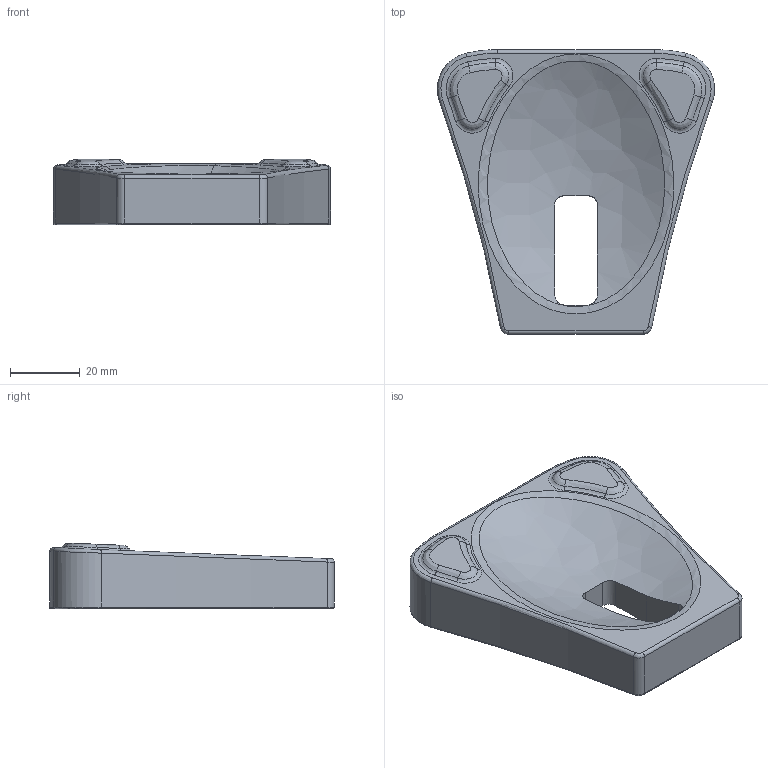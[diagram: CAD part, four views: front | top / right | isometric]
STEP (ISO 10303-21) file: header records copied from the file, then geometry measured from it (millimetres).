
FILE_DESCRIPTION(/* description */ (''),/* implementation_level */ '2;1');
FILE_NAME(/* name */ 'Modify part B.stp',/* time_stamp */ '2025-11-19T23:42:47+09:00',/* author */ (''),/* organization */ (''),/* preprocessor_version */ 'ST-DEVELOPER v11',/* originating_system */ 'SIEMENS PLM Software NX 7.5',/* authorisation */ '');
FILE_SCHEMA (('CONFIG_CONTROL_DESIGN'));
Length unit declared in the file: millimetre
Products named in the file (1): gyun8741ytcc
Bounding box: 79.35 x 81.5 x 18.8 mm (x, y, z)
Volume: 64787.3 mm3; surface area: 14638.5 mm2
Topology: 1 solids, 1 shells, 73 faces, 172 edges, 104 vertices
Faces by surface type: bspline 34, plane 15, cylinder 14, torus 10
Entity records: 3069 total; most frequent: CARTESIAN_POINT 1468, ORIENTED_EDGE 340, DIRECTION 290, EDGE_CURVE 170, AXIS2_PLACEMENT_3D 125, VERTEX_POINT 103, EDGE_LOOP 79, ADVANCED_FACE 73
